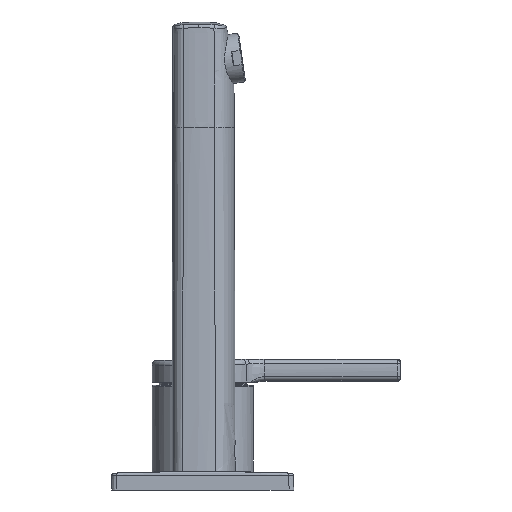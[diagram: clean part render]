
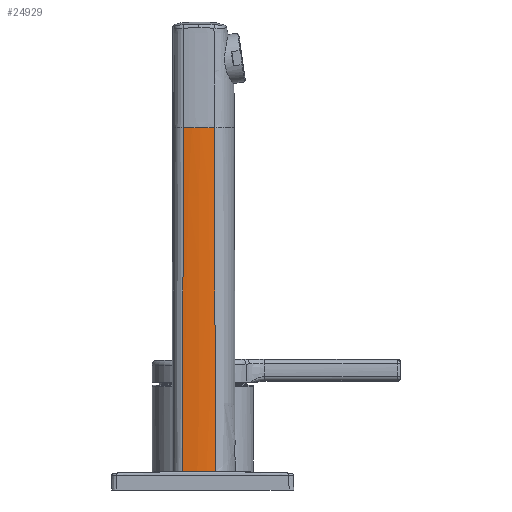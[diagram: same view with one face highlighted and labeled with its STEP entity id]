
A CAD part, left-side view. The second image highlights one B-rep face of the part: STEP entity #24929.
In plain terms, the highlighted free-form (B-spline) face has degree [5, 5] with [7, 6] control points.
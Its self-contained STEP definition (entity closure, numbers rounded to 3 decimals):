
#7493=CARTESIAN_POINT('',(-112.873,-5.128,27.7));
#7556=DIRECTION('',(0.001,0.003,1.));
#7557=VECTOR('',#7556,139.173);
#7558=CARTESIAN_POINT('',(-112.873,-5.128,27.7));
#7559=LINE('',#7558,#7557);
#7620=CARTESIAN_POINT('',(-112.687,-4.706,166.872));
#7622=CARTESIAN_POINT('',(-113.252,8.063,27.7));
#7623=CARTESIAN_POINT('',(-113.282,7.789,27.7));
#7624=CARTESIAN_POINT('',(-113.339,7.242,27.7));
#7625=CARTESIAN_POINT('',(-113.409,6.419,27.7));
#7626=CARTESIAN_POINT('',(-113.465,5.594,27.7));
#7627=CARTESIAN_POINT('',(-113.507,4.767,27.7));
#7628=CARTESIAN_POINT('',(-113.534,3.939,27.7));
#7629=CARTESIAN_POINT('',(-113.546,3.109,27.7));
#7630=CARTESIAN_POINT('',(-113.544,2.279,27.7));
#7631=CARTESIAN_POINT('',(-113.528,1.449,27.7));
#7632=CARTESIAN_POINT('',(-113.497,0.62,
27.7));
#7633=CARTESIAN_POINT('',(-113.451,-0.208,
27.7));
#7634=CARTESIAN_POINT('',(-113.39,-1.035,
27.7));
#7635=CARTESIAN_POINT('',(-113.316,-1.86,
27.7));
#7636=CARTESIAN_POINT('',(-113.227,-2.681,
27.7));
#7637=CARTESIAN_POINT('',(-113.124,-3.5,
27.7));
#7638=CARTESIAN_POINT('',(-113.007,-4.316,
27.7));
#7639=CARTESIAN_POINT('',(-112.919,-4.858,27.7));
#7640=CARTESIAN_POINT('',(-112.873,-5.128,27.7));
#7642=DIRECTION('',(0.003,-0.001,1.));
#7643=VECTOR('',#7642,139.173);
#7644=CARTESIAN_POINT('',(-113.252,8.063,27.7));
#7645=LINE('',#7644,#7643);
#7646=CARTESIAN_POINT('',(-112.687,-4.706,166.872));
#7647=CARTESIAN_POINT('',(-112.724,-4.442,166.872));
#7648=CARTESIAN_POINT('',(-112.794,-3.913,166.872));
#7649=CARTESIAN_POINT('',(-112.886,-3.121,166.872));
#7650=CARTESIAN_POINT('',(-112.965,-2.329,166.872));
#7651=CARTESIAN_POINT('',(-113.03,-1.538,
166.872));
#7652=CARTESIAN_POINT('',(-113.082,-0.747,
166.872));
#7653=CARTESIAN_POINT('',(-113.121,0.043,
166.872));
#7654=CARTESIAN_POINT('',(-113.147,0.834,
166.872));
#7655=CARTESIAN_POINT('',(-113.16,1.624,166.872));
#7656=CARTESIAN_POINT('',(-113.16,2.414,166.872));
#7657=CARTESIAN_POINT('',(-113.147,3.205,166.872));
#7658=CARTESIAN_POINT('',(-113.121,3.996,166.872));
#7659=CARTESIAN_POINT('',(-113.082,4.787,166.872));
#7660=CARTESIAN_POINT('',(-113.03,5.578,166.872));
#7661=CARTESIAN_POINT('',(-112.964,6.37,166.872));
#7662=CARTESIAN_POINT('',(-112.885,7.163,166.872));
#7663=CARTESIAN_POINT('',(-112.824,7.692,166.872));
#7664=CARTESIAN_POINT('',(-112.791,7.956,166.872));
#23378=VERTEX_POINT('',#7620);
#23379=VERTEX_POINT('',#7664);
#23402=VERTEX_POINT('',#7493);
#23403=VERTEX_POINT('',#7622);
#24878=CARTESIAN_POINT('',(-112.917,-5.409,-22.3));
#24879=CARTESIAN_POINT('',(-112.867,-5.292,
15.813));
#24880=CARTESIAN_POINT('',(-112.817,-5.176,
53.925));
#24881=CARTESIAN_POINT('',(-112.767,-5.06,
92.038));
#24882=CARTESIAN_POINT('',(-112.717,-4.944,130.151));
#24883=CARTESIAN_POINT('',(-112.667,-4.828,168.264));
#24884=CARTESIAN_POINT('',(-113.161,-4.077,
-22.3));
#24885=CARTESIAN_POINT('',(-113.099,-3.968,
15.813));
#24886=CARTESIAN_POINT('',(-113.038,-3.86,
53.925));
#24887=CARTESIAN_POINT('',(-112.976,-3.751,
92.038));
#24888=CARTESIAN_POINT('',(-112.915,-3.642,130.151));
#24889=CARTESIAN_POINT('',(-112.853,-3.534,168.264));
#24890=CARTESIAN_POINT('',(-113.555,-1.381,
-22.3));
#24891=CARTESIAN_POINT('',(-113.471,-1.295,
15.813));
#24892=CARTESIAN_POINT('',(-113.387,-1.209,
53.925));
#24893=CARTESIAN_POINT('',(-113.303,-1.122,
92.038));
#24894=CARTESIAN_POINT('',(-113.22,-1.036,
130.151));
#24895=CARTESIAN_POINT('',(-113.136,-0.95,
168.264));
#24896=CARTESIAN_POINT('',(-113.761,1.381,
-22.3));
#24897=CARTESIAN_POINT('',(-113.657,1.43,
15.813));
#24898=CARTESIAN_POINT('',(-113.552,1.479,
53.925));
#24899=CARTESIAN_POINT('',(-113.448,1.528,
92.038));
#24900=CARTESIAN_POINT('',(-113.344,1.577,
130.151));
#24901=CARTESIAN_POINT('',(-113.239,1.625,
168.264));
#24902=CARTESIAN_POINT('',(-113.754,4.155,
-22.3));
#24903=CARTESIAN_POINT('',(-113.638,4.164,
15.813));
#24904=CARTESIAN_POINT('',(-113.523,4.174,
53.925));
#24905=CARTESIAN_POINT('',(-113.407,4.183,
92.038));
#24906=CARTESIAN_POINT('',(-113.292,4.193,
130.151));
#24907=CARTESIAN_POINT('',(-113.176,4.202,
168.264));
#24908=CARTESIAN_POINT('',(-113.552,6.881,
-22.3));
#24909=CARTESIAN_POINT('',(-113.429,6.862,
15.813));
#24910=CARTESIAN_POINT('',(-113.305,6.843,
53.925));
#24911=CARTESIAN_POINT('',(-113.182,6.824,
92.038));
#24912=CARTESIAN_POINT('',(-113.059,6.806,130.151));
#24913=CARTESIAN_POINT('',(-112.935,6.787,168.264));
#24914=CARTESIAN_POINT('',(-113.403,8.232,
-22.3));
#24915=CARTESIAN_POINT('',(-113.276,8.202,
15.813));
#24916=CARTESIAN_POINT('',(-113.15,8.172,
53.925));
#24917=CARTESIAN_POINT('',(-113.023,8.142,
92.038));
#24918=CARTESIAN_POINT('',(-112.897,8.111,130.151));
#24919=CARTESIAN_POINT('',(-112.77,8.081,168.264));
#24920=B_SPLINE_SURFACE_WITH_KNOTS('',5,5,((#24878,#24879,#24880,#24881,#24882,
#24883),(#24884,#24885,#24886,#24887,#24888,#24889),(#24890,#24891,#24892,
#24893,#24894,#24895),(#24896,#24897,#24898,#24899,#24900,#24901),(#24902,
#24903,#24904,#24905,#24906,#24907),(#24908,#24909,#24910,#24911,#24912,#24913),
(#24914,#24915,#24916,#24917,#24918,#24919)),.UNSPECIFIED.,.F.,.F.,.F.,(6,1,6),(
6,6),(0.574,0.65,0.725),(0.,
1.007),.UNSPECIFIED.);
#24921=ORIENTED_EDGE('',*,*,#24346,.F.);
#24923=ORIENTED_EDGE('',*,*,#24922,.T.);
#24925=ORIENTED_EDGE('',*,*,#24924,.F.);
#24926=ORIENTED_EDGE('',*,*,#24870,.F.);
#24927=EDGE_LOOP('',(#24921,#24923,#24925,#24926));
#24928=FACE_OUTER_BOUND('',#24927,.F.);
#24929=ADVANCED_FACE('',(#24928),#24920,.F.);
#7641=B_SPLINE_CURVE_WITH_KNOTS('',3,(#7622,#7623,#7624,#7625,#7626,#7627,#7628,
#7629,#7630,#7631,#7632,#7633,#7634,#7635,#7636,#7637,#7638,#7639,#7640),
.UNSPECIFIED.,.F.,.F.,(4,1,1,1,1,1,1,1,1,1,1,1,1,1,1,1,4),(0.,
0.062,0.125,0.187,0.25,
0.312,0.375,0.437,0.5,
0.562,0.625,0.687,0.75,
0.812,0.875,0.937,1.),.UNSPECIFIED.);
#7665=B_SPLINE_CURVE_WITH_KNOTS('',3,(#7646,#7647,#7648,#7649,#7650,#7651,#7652,
#7653,#7654,#7655,#7656,#7657,#7658,#7659,#7660,#7661,#7662,#7663,#7664),
.UNSPECIFIED.,.F.,.F.,(4,1,1,1,1,1,1,1,1,1,1,1,1,1,1,1,4),(0.,
0.063,0.125,0.188,0.25,
0.313,0.375,0.438,0.5,
0.563,0.625,0.688,0.75,
0.813,0.875,0.938,1.),.UNSPECIFIED.);
#24346=EDGE_CURVE('',#23403,#23402,#7641,.T.);
#24870=EDGE_CURVE('',#23402,#23378,#7559,.T.);
#24922=EDGE_CURVE('',#23403,#23379,#7645,.T.);
#24924=EDGE_CURVE('',#23378,#23379,#7665,.T.);
